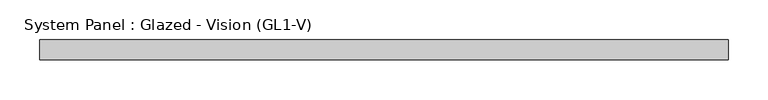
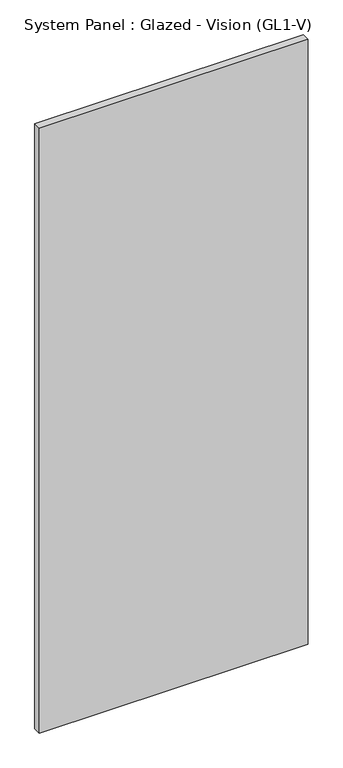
"""IFC4 building model written with IfcOpenShell, lengths in millimetres: plate geometry, System Panel : Glazed - Vision (GL1-V)."""

from ifc_helpers import new_model, si_unit, origin, origin_with_axes, place, context, project, spatial, polyline, outline, extrude, source, transform, mapped, element, save


def system_panel_glazed_vision_gl1_v_30913f25(model_context):
    return source(origin(), model_context, "Body", "SweptSolid", [
        extrude(outline(polyline([(434.9702038, -25.4), (-434.9702038, -25.4), (-434.9702038, 0.0), (434.9702038, 0.0), (434.9702038, -25.4)])), origin_with_axes(), (0.0, 0.0, 1.0), 2070.1),
    ])


if __name__ == "__main__":
    model = new_model("IFC4")
    model_context = context("Model", 3, world=origin())
    ifc_project = project(units=[si_unit("LENGTHUNIT", "METRE", prefix="MILLI")], contexts=[model_context])
    site = spatial("IfcSite", under=ifc_project)
    building = spatial("IfcBuilding", under=site)
    placement = place(None, origin())
    system_panel_glazed_vision_gl1_v_shape = system_panel_glazed_vision_gl1_v_30913f25(model_context)
    element("IfcPlate", 1, ObjectType="System Panel : Glazed - Vision (GL1-V)", at=placement, inside=building, context=model_context, shape_type="MappedRepresentation", body=[
        mapped(system_panel_glazed_vision_gl1_v_shape, transform((0.0, 0.0, 0.0), x_axis=(1.0, 0.0, 0.0), y_axis=(0.0, 1.0, 0.0), z_axis=(0.0, 0.0, 1.0))),
    ])
    save(model, "model.ifc")
